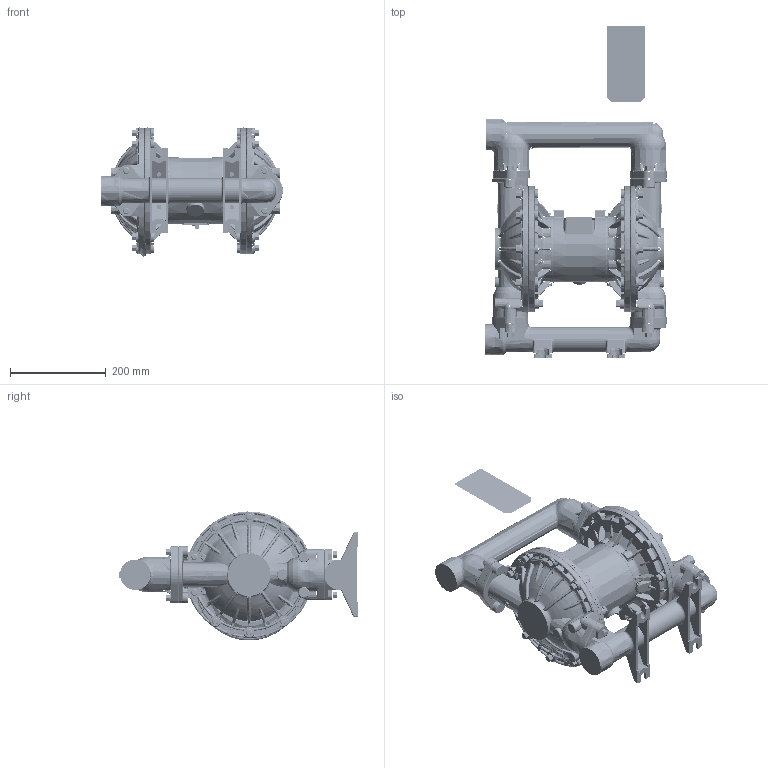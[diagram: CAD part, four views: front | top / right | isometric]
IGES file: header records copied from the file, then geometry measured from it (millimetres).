
Start section:  PTC IGES file: 253485-en-g.igs
Global section: file name: 253485-en-g.igs; native system: Creo Parametric by PTC Inc.; preprocessor: 2021072; author: qtmwp1; organization: Unknown; date: 20220214.120235; units: inch
Bounding box: 379.48 x 693.04 x 269.44 mm (x, y, z)
Surface area: 1054127.2 mm2 (no closed solid volume)
Topology: 0 solids, 0 shells, 3223 faces, 16816 edges, 16816 vertices
Faces by surface type: revolution 1742, bspline 1472, extrusion 9
